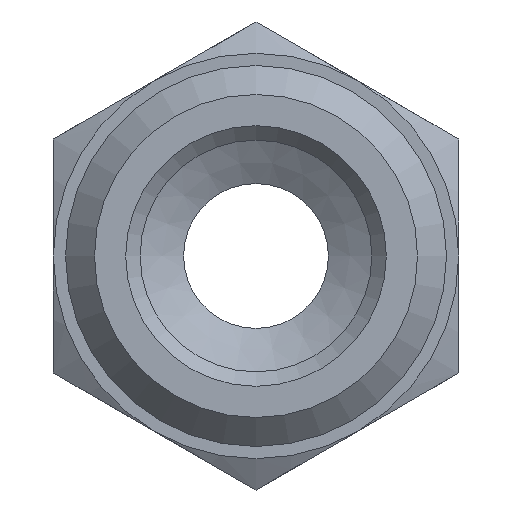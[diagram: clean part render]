
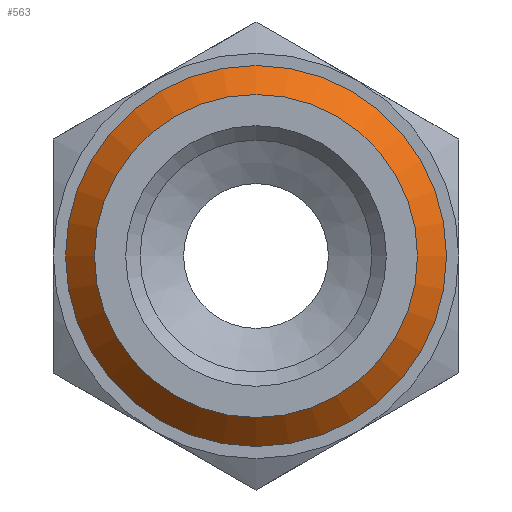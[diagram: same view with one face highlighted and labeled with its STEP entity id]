
A CAD part, front view. The second image highlights one B-rep face of the part: STEP entity #563.
In plain terms, the highlighted conical face has half-angle 45 degrees and reference radius 6.079 mm.
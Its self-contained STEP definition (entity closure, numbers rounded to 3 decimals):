
#66=FACE_OUTER_BOUND('',#103,.T.);
#103=EDGE_LOOP('',(#380,#381,#382,#383,#384));
#142=LINE('',#902,#160);
#160=VECTOR('',#722,6.079);
#179=CIRCLE('',#621,5.579);
#182=CIRCLE('',#626,6.579);
#183=CIRCLE('',#627,6.579);
#225=VERTEX_POINT('',#892);
#228=VERTEX_POINT('',#901);
#229=VERTEX_POINT('',#903);
#283=EDGE_CURVE('',#225,#225,#179,.T.);
#287=EDGE_CURVE('',#225,#228,#142,.T.);
#288=EDGE_CURVE('',#228,#229,#182,.T.);
#289=EDGE_CURVE('',#229,#228,#183,.T.);
#380=ORIENTED_EDGE('',*,*,#283,.T.);
#381=ORIENTED_EDGE('',*,*,#287,.T.);
#382=ORIENTED_EDGE('',*,*,#288,.T.);
#383=ORIENTED_EDGE('',*,*,#289,.T.);
#384=ORIENTED_EDGE('',*,*,#287,.F.);
#544=CONICAL_SURFACE('',#625,6.079,0.785);
#563=ADVANCED_FACE('',(#66),#544,.T.);
#621=AXIS2_PLACEMENT_3D('',#893,#711,#712);
#625=AXIS2_PLACEMENT_3D('',#900,#720,#721);
#626=AXIS2_PLACEMENT_3D('',#904,#723,#724);
#627=AXIS2_PLACEMENT_3D('',#905,#725,#726);
#711=DIRECTION('center_axis',(0.,1.,0.));
#712=DIRECTION('ref_axis',(-1.,0.,0.));
#720=DIRECTION('center_axis',(0.,1.,0.));
#721=DIRECTION('ref_axis',(-1.,0.,0.));
#722=DIRECTION('',(0.707,0.707,0.));
#723=DIRECTION('center_axis',(0.,-1.,0.));
#724=DIRECTION('ref_axis',(-1.,0.,0.));
#725=DIRECTION('center_axis',(0.,-1.,0.));
#726=DIRECTION('ref_axis',(-1.,0.,0.));
#892=CARTESIAN_POINT('',(5.579,0.,0.));
#893=CARTESIAN_POINT('Origin',(0.,0.,0.));
#900=CARTESIAN_POINT('Origin',(0.,0.5,0.));
#901=CARTESIAN_POINT('',(6.579,1.,0.));
#902=CARTESIAN_POINT('',(6.079,0.5,0.));
#903=CARTESIAN_POINT('',(-6.579,1.,0.));
#904=CARTESIAN_POINT('Origin',(0.,1.,0.));
#905=CARTESIAN_POINT('Origin',(0.,1.,0.));
